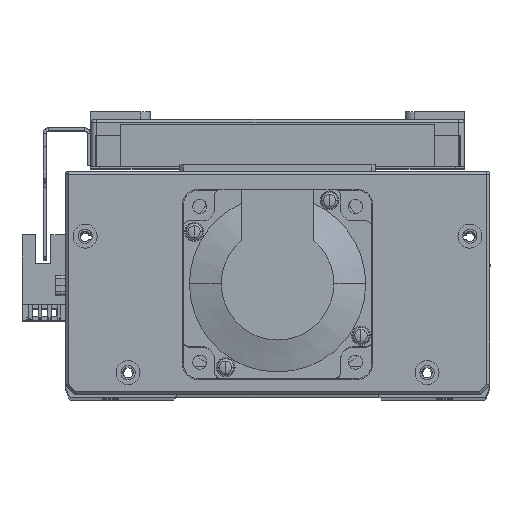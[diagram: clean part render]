
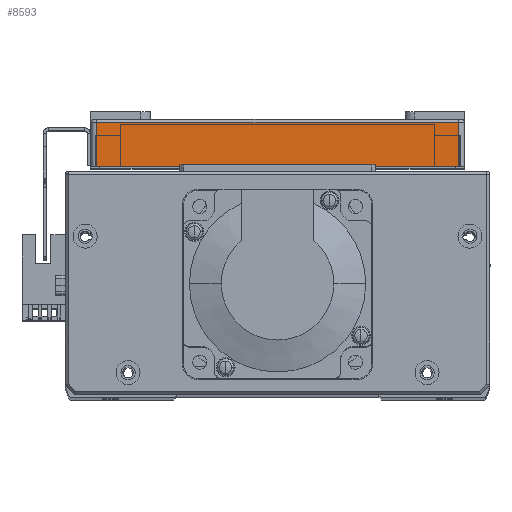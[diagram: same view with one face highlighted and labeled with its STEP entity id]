
A CAD part, top view. The second image highlights one B-rep face of the part: STEP entity #8593.
In plain terms, the highlighted planar face has unit normal (0, 0, 1) as drawn and (-1, 0, 0) by its records, which use the part's own axes.
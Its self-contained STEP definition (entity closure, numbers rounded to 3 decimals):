
#6279 = EDGE_LOOP ( 'NONE', ( #29714, #38536, #38520, #29719 ) ) ;
#8593 = ADVANCED_FACE ( 'NONE', ( #49091 ), #52014, .F. ) ;
#10949 = AXIS2_PLACEMENT_3D ( 'NONE', #52010, #51942, #51955 ) ;
#21296 = VERTEX_POINT ( 'NONE', #44332 ) ;
#29714 = ORIENTED_EDGE ( 'NONE', *, *, #41313, .T. ) ;
#29719 = ORIENTED_EDGE ( 'NONE', *, *, #41231, .T. ) ;
#33347 = CARTESIAN_POINT ( 'NONE',  ( -95., 14., 57.5 ) ) ;
#33372 = CARTESIAN_POINT ( 'NONE',  ( -95., 14., -57.5 ) ) ;
#33387 = CARTESIAN_POINT ( 'NONE',  ( -95., 0., -57.5 ) ) ;
#34676 = DIRECTION ( 'NONE',  ( 0., 0., 1. ) ) ;
#34684 = CARTESIAN_POINT ( 'NONE',  ( -95., 0., -59.5 ) ) ;
#34807 = CARTESIAN_POINT ( 'NONE',  ( -95., 14., -57.5 ) ) ;
#34812 = CARTESIAN_POINT ( 'NONE',  ( -95., 15., -57.5 ) ) ;
#34825 = DIRECTION ( 'NONE',  ( 0., 0., -1. ) ) ;
#34831 = DIRECTION ( 'NONE',  ( 0., -1., 0. ) ) ;
#34841 = CARTESIAN_POINT ( 'NONE',  ( -95., 15., 57.5 ) ) ;
#34873 = DIRECTION ( 'NONE',  ( 0., 1., 0. ) ) ;
#35220 = LINE ( 'NONE', #34684, #35243 ) ;
#35243 = VECTOR ( 'NONE', #34676, 1000. ) ;
#35329 = LINE ( 'NONE', #34807, #35330 ) ;
#35330 = VECTOR ( 'NONE', #34825, 1000. ) ;
#35392 = VECTOR ( 'NONE', #34831, 1000. ) ;
#35395 = VECTOR ( 'NONE', #34873, 1000. ) ;
#35399 = LINE ( 'NONE', #34841, #35395 ) ;
#35401 = LINE ( 'NONE', #34812, #35392 ) ;
#37931 = VERTEX_POINT ( 'NONE', #33347 ) ;
#38008 = VERTEX_POINT ( 'NONE', #33387 ) ;
#38011 = VERTEX_POINT ( 'NONE', #33372 ) ;
#38520 = ORIENTED_EDGE ( 'NONE', *, *, #41299, .T. ) ;
#38536 = ORIENTED_EDGE ( 'NONE', *, *, #41286, .T. ) ;
#41231 = EDGE_CURVE ( 'NONE', #38008, #21296, #35220, .T. ) ;
#41286 = EDGE_CURVE ( 'NONE', #37931, #38011, #35329, .T. ) ;
#41299 = EDGE_CURVE ( 'NONE', #38011, #38008, #35401, .T. ) ;
#41313 = EDGE_CURVE ( 'NONE', #21296, #37931, #35399, .T. ) ;
#44332 = CARTESIAN_POINT ( 'NONE',  ( -95., 0., 57.5 ) ) ;
#49091 = FACE_OUTER_BOUND ( 'NONE', #6279, .T. ) ;
#51942 = DIRECTION ( 'NONE',  ( 1., 0., 0. ) ) ;
#51955 = DIRECTION ( 'NONE',  ( 0., 0., -1. ) ) ;
#52010 = CARTESIAN_POINT ( 'NONE',  ( -95., 15., -59.5 ) ) ;
#52014 = PLANE ( 'NONE',  #10949 ) ;
